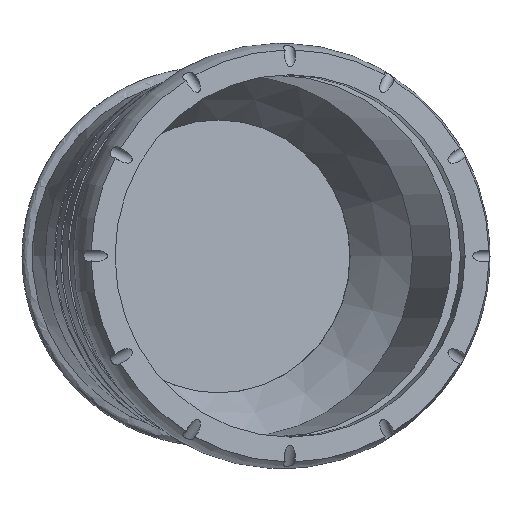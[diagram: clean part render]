
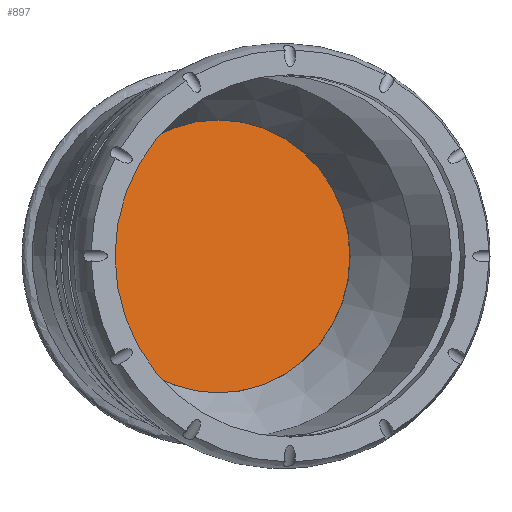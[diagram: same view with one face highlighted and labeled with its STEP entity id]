
A CAD part, top view. The second image highlights one B-rep face of the part: STEP entity #897.
In plain terms, the highlighted planar face has unit normal (0.259, 0, 0.966).
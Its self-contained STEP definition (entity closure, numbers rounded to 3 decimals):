
#80=PLANE('',#962);
#89=FACE_OUTER_BOUND('',#140,.T.);
#140=EDGE_LOOP('',(#584,#585,#586,#587,#588,#589,#590));
#216=ELLIPSE('',#957,62.4,62.3);
#217=ELLIPSE('',#958,62.4,62.3);
#218=ELLIPSE('',#959,62.4,62.3);
#219=ELLIPSE('',#963,64.808,62.6);
#220=ELLIPSE('',#964,64.808,62.6);
#283=B_SPLINE_CURVE_WITH_KNOTS('',3,(#1440,#1441,#1442,#1443),
 .UNSPECIFIED.,.F.,.F.,(4,4),(-0.034,0.),.UNSPECIFIED.);
#284=B_SPLINE_CURVE_WITH_KNOTS('',3,(#1445,#1446,#1447,#1448),
 .UNSPECIFIED.,.F.,.F.,(4,4),(-3.336,-3.317),
 .UNSPECIFIED.);
#349=VERTEX_POINT('',#1374);
#350=VERTEX_POINT('',#1376);
#352=VERTEX_POINT('',#1383);
#353=VERTEX_POINT('',#1404);
#355=VERTEX_POINT('',#1425);
#357=VERTEX_POINT('',#1439);
#358=VERTEX_POINT('',#1444);
#446=EDGE_CURVE('',#349,#350,#216,.T.);
#449=EDGE_CURVE('',#352,#353,#217,.T.);
#452=EDGE_CURVE('',#355,#349,#218,.T.);
#454=EDGE_CURVE('',#350,#357,#283,.T.);
#455=EDGE_CURVE('',#358,#355,#284,.T.);
#456=EDGE_CURVE('',#353,#358,#219,.T.);
#457=EDGE_CURVE('',#357,#352,#220,.T.);
#584=ORIENTED_EDGE('',*,*,#454,.F.);
#585=ORIENTED_EDGE('',*,*,#446,.F.);
#586=ORIENTED_EDGE('',*,*,#452,.F.);
#587=ORIENTED_EDGE('',*,*,#455,.F.);
#588=ORIENTED_EDGE('',*,*,#456,.F.);
#589=ORIENTED_EDGE('',*,*,#449,.F.);
#590=ORIENTED_EDGE('',*,*,#457,.F.);
#897=ADVANCED_FACE('',(#89),#80,.F.);
#957=AXIS2_PLACEMENT_3D('',#1377,#1053,#1054);
#958=AXIS2_PLACEMENT_3D('',#1405,#1055,#1056);
#959=AXIS2_PLACEMENT_3D('',#1434,#1057,#1058);
#962=AXIS2_PLACEMENT_3D('',#1438,#1063,#1064);
#963=AXIS2_PLACEMENT_3D('',#1449,#1065,#1066);
#964=AXIS2_PLACEMENT_3D('',#1450,#1067,#1068);
#1053=DIRECTION('center_axis',(-0.259,0.,-0.966));
#1054=DIRECTION('ref_axis',(0.,-1.,0.));
#1055=DIRECTION('center_axis',(-0.259,0.,-0.966));
#1056=DIRECTION('ref_axis',(0.,-1.,0.));
#1057=DIRECTION('center_axis',(-0.259,0.,-0.966));
#1058=DIRECTION('ref_axis',(0.,-1.,0.));
#1063=DIRECTION('center_axis',(-0.259,0.,-0.966));
#1064=DIRECTION('ref_axis',(-0.966,0.,0.259));
#1065=DIRECTION('center_axis',(-0.259,0.,-0.966));
#1066=DIRECTION('ref_axis',(0.966,0.,-0.259));
#1067=DIRECTION('center_axis',(-0.259,0.,-0.966));
#1068=DIRECTION('ref_axis',(0.966,0.,-0.259));
#1374=CARTESIAN_POINT('',(-58.012,0.,107.218));
#1376=CARTESIAN_POINT('',(40.243,48.319,80.891));
#1377=CARTESIAN_POINT('Origin',(2.165,0.,91.094));
#1383=CARTESIAN_POINT('',(54.56,30.691,77.054));
#1404=CARTESIAN_POINT('',(54.56,-30.691,77.054));
#1405=CARTESIAN_POINT('Origin',(2.165,0.,91.094));
#1425=CARTESIAN_POINT('',(40.243,-48.319,80.891));
#1434=CARTESIAN_POINT('Origin',(2.165,0.,91.094));
#1438=CARTESIAN_POINT('Origin',(2.165,0.,91.094));
#1439=CARTESIAN_POINT('',(40.208,47.98,80.9));
#1440=CARTESIAN_POINT('Ctrl Pts',(40.243,48.319,80.891));
#1441=CARTESIAN_POINT('Ctrl Pts',(40.218,48.209,80.897));
#1442=CARTESIAN_POINT('Ctrl Pts',(40.208,48.094,80.9));
#1443=CARTESIAN_POINT('Ctrl Pts',(40.208,47.98,80.9));
#1444=CARTESIAN_POINT('',(40.208,-47.98,80.9));
#1445=CARTESIAN_POINT('Ctrl Pts',(40.208,-47.98,80.9));
#1446=CARTESIAN_POINT('Ctrl Pts',(40.208,-48.094,80.9));
#1447=CARTESIAN_POINT('Ctrl Pts',(40.218,-48.209,80.897));
#1448=CARTESIAN_POINT('Ctrl Pts',(40.243,-48.319,80.891));
#1449=CARTESIAN_POINT('Origin',(0.,0.,91.674));
#1450=CARTESIAN_POINT('Origin',(0.,0.,91.674));
